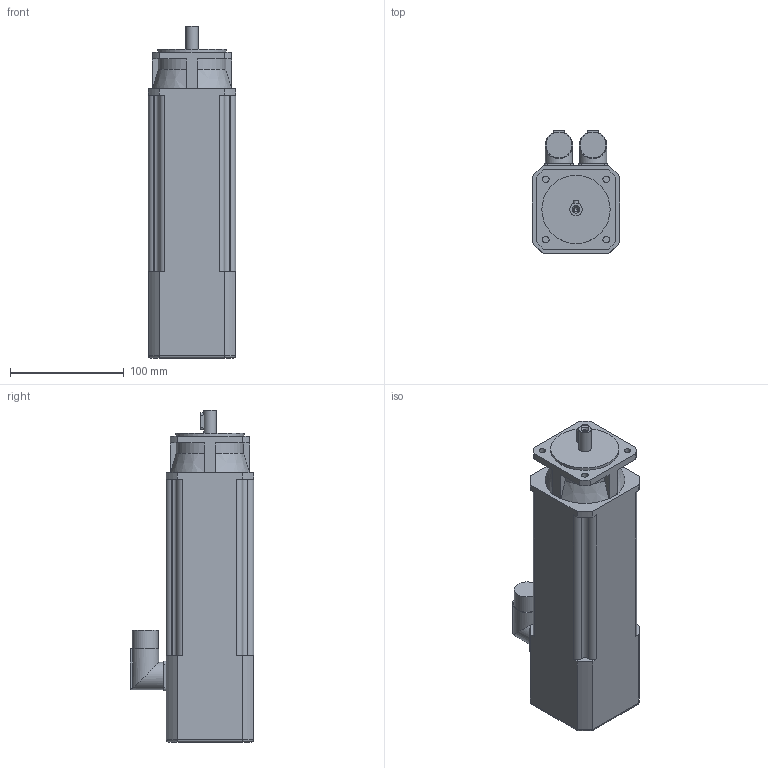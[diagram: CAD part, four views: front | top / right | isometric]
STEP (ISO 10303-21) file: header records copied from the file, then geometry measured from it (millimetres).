
FILE_DESCRIPTION(/* description */ (''),/* implementation_level */ '2;1');
FILE_NAME(/* name */ '\\Lafnas01\disegni\Archivi Lafert\3D\CAD 3D\MODELLI\Assiemi clienti\Serad\Modelli 3D Serad\B36I\Encoder\Enc With Brake\B36E8Ixx6BRx2033.ipt.stp',/* time_stamp */ '2015-09-07T10:48:56+02:00',/* author */ ('Pastrello Ylenia'),/* organization */ (''),/* preprocessor_version */ 'ST-DEVELOPER v15.6',/* originating_system */ 'Autodesk Inventor 2015',/* authorisation */ '');
FILE_SCHEMA (('AUTOMOTIVE_DESIGN { 1 0 10303 214 3 1 1 }'));
Length unit declared in the file: millimetre
Products named in the file (1): B36E8Ixx6BRx2033
Bounding box: 77 x 108.5 x 292 mm (x, y, z)
Volume: 1505036.3 mm3; surface area: 100228.3 mm2
Topology: 1 solids, 1 shells, 135 faces, 364 edges, 240 vertices
Faces by surface type: plane 64, cylinder 56, cone 11, torus 4
Full cylindrical faces by diameter (mm): 3.242 x1, 4.3 x1, 5.8 x4, 11 x1, 22.7 x2, 24 x2, 60 x1
Entity records: 4274 total; most frequent: CARTESIAN_POINT 876, DIRECTION 712, ORIENTED_EDGE 686, EDGE_CURVE 343, AXIS2_PLACEMENT_3D 255, VERTEX_POINT 235, LINE 202, VECTOR 202
